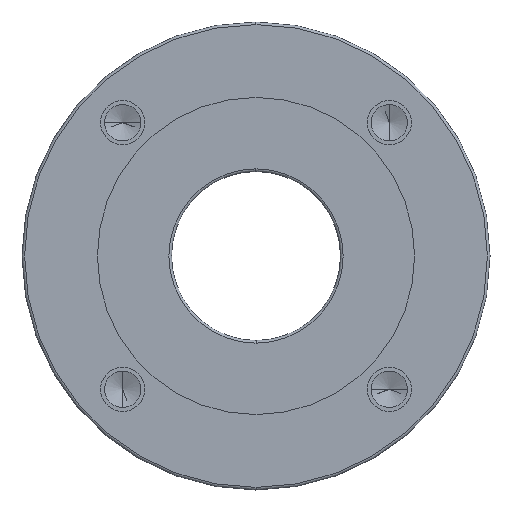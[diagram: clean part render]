
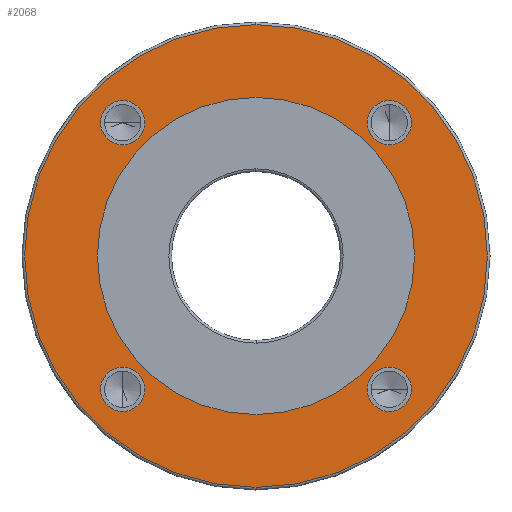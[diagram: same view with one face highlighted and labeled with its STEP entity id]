
A CAD part, left-side view. The second image highlights one B-rep face of the part: STEP entity #2068.
In plain terms, the highlighted planar face has unit normal (-1, 0, 0).
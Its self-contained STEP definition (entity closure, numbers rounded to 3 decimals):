
#2 = EDGE_CURVE ( 'NONE', #1081, #3, #1665, .T. ) ;
#3 = VERTEX_POINT ( 'NONE', #1666 ) ;
#11 = EDGE_CURVE ( 'NONE', #1203, #1144, #1648, .T. ) ;
#74 = DIRECTION ( 'NONE',  ( 0., 0., -1. ) ) ;
#75 = DIRECTION ( 'NONE',  ( -1., 0., 0. ) ) ;
#76 = CARTESIAN_POINT ( 'NONE',  ( -32., 0., 0. ) ) ;
#77 = AXIS2_PLACEMENT_3D ( 'NONE', #76, #75, #74 ) ;
#78 = CARTESIAN_POINT ( 'NONE',  ( -32., 0., -89. ) ) ;
#93 = CIRCLE ( 'NONE', #77, 89. ) ;
#107 = CARTESIAN_POINT ( 'NONE',  ( -32., 42.765, 51.265 ) ) ;
#125 = AXIS2_PLACEMENT_3D ( 'NONE', #169, #168, #167 ) ;
#135 = CARTESIAN_POINT ( 'NONE',  ( -32., 59.765, 51.265 ) ) ;
#142 = CIRCLE ( 'NONE', #125, 8.5 ) ;
#167 = DIRECTION ( 'NONE',  ( 0., 0., -1. ) ) ;
#168 = DIRECTION ( 'NONE',  ( -1., 0., 0. ) ) ;
#169 = CARTESIAN_POINT ( 'NONE',  ( -32., 51.265, 51.265 ) ) ;
#274 = CARTESIAN_POINT ( 'NONE',  ( -32., -59.765, -51.265 ) ) ;
#322 = AXIS2_PLACEMENT_3D ( 'NONE', #371, #370, #369 ) ;
#326 = CIRCLE ( 'NONE', #322, 8.5 ) ;
#369 = DIRECTION ( 'NONE',  ( 0., 0., -1. ) ) ;
#370 = DIRECTION ( 'NONE',  ( -1., 0., 0. ) ) ;
#371 = CARTESIAN_POINT ( 'NONE',  ( -32., 51.265, 51.265 ) ) ;
#544 = CARTESIAN_POINT ( 'NONE',  ( -32., -51.265, 59.765 ) ) ;
#606 = DIRECTION ( 'NONE',  ( 0., 0., -1. ) ) ;
#607 = DIRECTION ( 'NONE',  ( -1., 0., 0. ) ) ;
#608 = CARTESIAN_POINT ( 'NONE',  ( -32., -51.265, 51.265 ) ) ;
#609 = AXIS2_PLACEMENT_3D ( 'NONE', #608, #607, #606 ) ;
#610 = CIRCLE ( 'NONE', #609, 8.5 ) ;
#611 = CARTESIAN_POINT ( 'NONE',  ( -32., -51.265, 42.765 ) ) ;
#802 = FACE_BOUND ( 'NONE', #2058, .T. ) ;
#804 = FACE_OUTER_BOUND ( 'NONE', #2060, .T. ) ;
#812 = AXIS2_PLACEMENT_3D ( 'NONE', #820, #855, #854 ) ;
#820 = CARTESIAN_POINT ( 'NONE',  ( -32., -51.265, 51.265 ) ) ;
#824 = AXIS2_PLACEMENT_3D ( 'NONE', #848, #847, #846 ) ;
#835 = DIRECTION ( 'NONE',  ( 0., 0., -1. ) ) ;
#836 = DIRECTION ( 'NONE',  ( -1., 0., 0. ) ) ;
#839 = DIRECTION ( 'NONE',  ( 0., 0., -1. ) ) ;
#840 = DIRECTION ( 'NONE',  ( 1., 0., 0. ) ) ;
#841 = CARTESIAN_POINT ( 'NONE',  ( -32., 90., 0. ) ) ;
#842 = AXIS2_PLACEMENT_3D ( 'NONE', #844, #836, #835 ) ;
#844 = CARTESIAN_POINT ( 'NONE',  ( -32., -51.265, -51.265 ) ) ;
#845 = FACE_BOUND ( 'NONE', #2072, .T. ) ;
#846 = DIRECTION ( 'NONE',  ( 0., 0., -1. ) ) ;
#847 = DIRECTION ( 'NONE',  ( -1., 0., 0. ) ) ;
#848 = CARTESIAN_POINT ( 'NONE',  ( -32., 51.265, -51.265 ) ) ;
#849 = CIRCLE ( 'NONE', #824, 8.5 ) ;
#850 = FACE_BOUND ( 'NONE', #2071, .T. ) ;
#851 = FACE_BOUND ( 'NONE', #2033, .T. ) ;
#852 = CIRCLE ( 'NONE', #842, 8.5 ) ;
#853 = FACE_BOUND ( 'NONE', #2066, .T. ) ;
#854 = DIRECTION ( 'NONE',  ( 0., 0., -1. ) ) ;
#855 = DIRECTION ( 'NONE',  ( -1., 0., 0. ) ) ;
#857 = AXIS2_PLACEMENT_3D ( 'NONE', #841, #840, #839 ) ;
#858 = PLANE ( 'NONE',  #857 ) ;
#863 = CIRCLE ( 'NONE', #812, 8.5 ) ;
#887 = DIRECTION ( 'NONE',  ( 0., 0., 1. ) ) ;
#888 = DIRECTION ( 'NONE',  ( -1., 0., 0. ) ) ;
#889 = CARTESIAN_POINT ( 'NONE',  ( -32., 0., 0. ) ) ;
#890 = AXIS2_PLACEMENT_3D ( 'NONE', #889, #888, #887 ) ;
#891 = CIRCLE ( 'NONE', #890, 61. ) ;
#980 = EDGE_CURVE ( 'NONE', #1295, #985, #1641, .T. ) ;
#985 = VERTEX_POINT ( 'NONE', #1682 ) ;
#1030 = VERTEX_POINT ( 'NONE', #1773 ) ;
#1038 = ORIENTED_EDGE ( 'NONE', *, *, #1338, .F. ) ;
#1062 = VERTEX_POINT ( 'NONE', #1811 ) ;
#1067 = EDGE_CURVE ( 'NONE', #1030, #1062, #1852, .T. ) ;
#1081 = VERTEX_POINT ( 'NONE', #1890 ) ;
#1144 = VERTEX_POINT ( 'NONE', #1992 ) ;
#1202 = EDGE_CURVE ( 'NONE', #1144, #1203, #93, .T. ) ;
#1203 = VERTEX_POINT ( 'NONE', #78 ) ;
#1231 = VERTEX_POINT ( 'NONE', #107 ) ;
#1233 = VERTEX_POINT ( 'NONE', #135 ) ;
#1238 = EDGE_CURVE ( 'NONE', #1233, #1231, #142, .T. ) ;
#1295 = VERTEX_POINT ( 'NONE', #274 ) ;
#1338 = EDGE_CURVE ( 'NONE', #1231, #1233, #326, .T. ) ;
#1343 = ORIENTED_EDGE ( 'NONE', *, *, #1238, .F. ) ;
#1489 = VERTEX_POINT ( 'NONE', #544 ) ;
#1490 = EDGE_CURVE ( 'NONE', #1489, #1496, #610, .T. ) ;
#1496 = VERTEX_POINT ( 'NONE', #611 ) ;
#1641 = CIRCLE ( 'NONE', #1694, 8.5 ) ;
#1642 = DIRECTION ( 'NONE',  ( 0., 0., -1. ) ) ;
#1643 = DIRECTION ( 'NONE',  ( -1., 0., 0. ) ) ;
#1644 = CARTESIAN_POINT ( 'NONE',  ( -32., 0., 0. ) ) ;
#1647 = AXIS2_PLACEMENT_3D ( 'NONE', #1644, #1643, #1642 ) ;
#1648 = CIRCLE ( 'NONE', #1647, 89. ) ;
#1661 = DIRECTION ( 'NONE',  ( 0., 0., 1. ) ) ;
#1662 = DIRECTION ( 'NONE',  ( -1., 0., 0. ) ) ;
#1663 = CARTESIAN_POINT ( 'NONE',  ( -32., 0., 0. ) ) ;
#1664 = AXIS2_PLACEMENT_3D ( 'NONE', #1663, #1662, #1661 ) ;
#1665 = CIRCLE ( 'NONE', #1664, 61. ) ;
#1666 = CARTESIAN_POINT ( 'NONE',  ( -32., 0., -61. ) ) ;
#1682 = CARTESIAN_POINT ( 'NONE',  ( -32., -42.765, -51.265 ) ) ;
#1690 = DIRECTION ( 'NONE',  ( 0., 0., -1. ) ) ;
#1691 = DIRECTION ( 'NONE',  ( -1., 0., 0. ) ) ;
#1692 = CARTESIAN_POINT ( 'NONE',  ( -32., -51.265, -51.265 ) ) ;
#1694 = AXIS2_PLACEMENT_3D ( 'NONE', #1692, #1691, #1690 ) ;
#1773 = CARTESIAN_POINT ( 'NONE',  ( -32., 51.265, -59.765 ) ) ;
#1811 = CARTESIAN_POINT ( 'NONE',  ( -32., 51.265, -42.765 ) ) ;
#1848 = DIRECTION ( 'NONE',  ( 0., 0., -1. ) ) ;
#1849 = DIRECTION ( 'NONE',  ( -1., 0., 0. ) ) ;
#1850 = CARTESIAN_POINT ( 'NONE',  ( -32., 51.265, -51.265 ) ) ;
#1851 = AXIS2_PLACEMENT_3D ( 'NONE', #1850, #1849, #1848 ) ;
#1852 = CIRCLE ( 'NONE', #1851, 8.5 ) ;
#1890 = CARTESIAN_POINT ( 'NONE',  ( -32., 0., 61. ) ) ;
#1992 = CARTESIAN_POINT ( 'NONE',  ( -32., 0., 89. ) ) ;
#2033 = EDGE_LOOP ( 'NONE', ( #2064, #2067 ) ) ;
#2035 = ORIENTED_EDGE ( 'NONE', *, *, #11, .T. ) ;
#2053 = ORIENTED_EDGE ( 'NONE', *, *, #2056, .F. ) ;
#2056 = EDGE_CURVE ( 'NONE', #1496, #1489, #863, .T. ) ;
#2057 = EDGE_CURVE ( 'NONE', #1062, #1030, #849, .T. ) ;
#2058 = EDGE_LOOP ( 'NONE', ( #2053, #2065 ) ) ;
#2059 = ORIENTED_EDGE ( 'NONE', *, *, #1202, .T. ) ;
#2060 = EDGE_LOOP ( 'NONE', ( #2035, #2059 ) ) ;
#2063 = ORIENTED_EDGE ( 'NONE', *, *, #2057, .F. ) ;
#2064 = ORIENTED_EDGE ( 'NONE', *, *, #2, .F. ) ;
#2065 = ORIENTED_EDGE ( 'NONE', *, *, #1490, .F. ) ;
#2066 = EDGE_LOOP ( 'NONE', ( #2063, #2075 ) ) ;
#2067 = ORIENTED_EDGE ( 'NONE', *, *, #2074, .F. ) ;
#2068 = ADVANCED_FACE ( 'NONE', ( #804, #802, #853, #851, #850, #845 ), #858, .F. ) ;
#2069 = ORIENTED_EDGE ( 'NONE', *, *, #2073, .F. ) ;
#2070 = ORIENTED_EDGE ( 'NONE', *, *, #980, .F. ) ;
#2071 = EDGE_LOOP ( 'NONE', ( #2069, #2070 ) ) ;
#2072 = EDGE_LOOP ( 'NONE', ( #1038, #1343 ) ) ;
#2073 = EDGE_CURVE ( 'NONE', #985, #1295, #852, .T. ) ;
#2074 = EDGE_CURVE ( 'NONE', #3, #1081, #891, .T. ) ;
#2075 = ORIENTED_EDGE ( 'NONE', *, *, #1067, .F. ) ;
